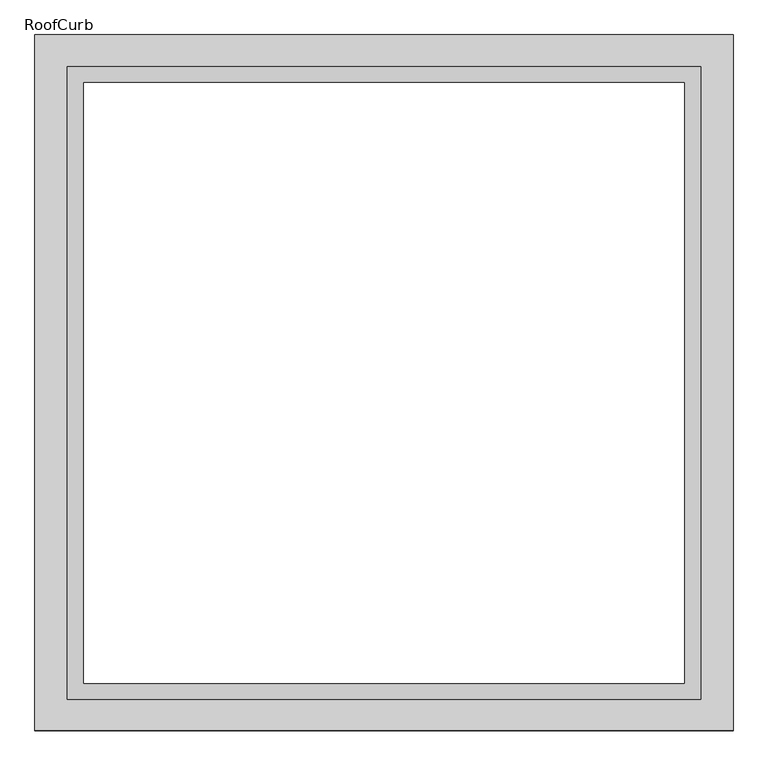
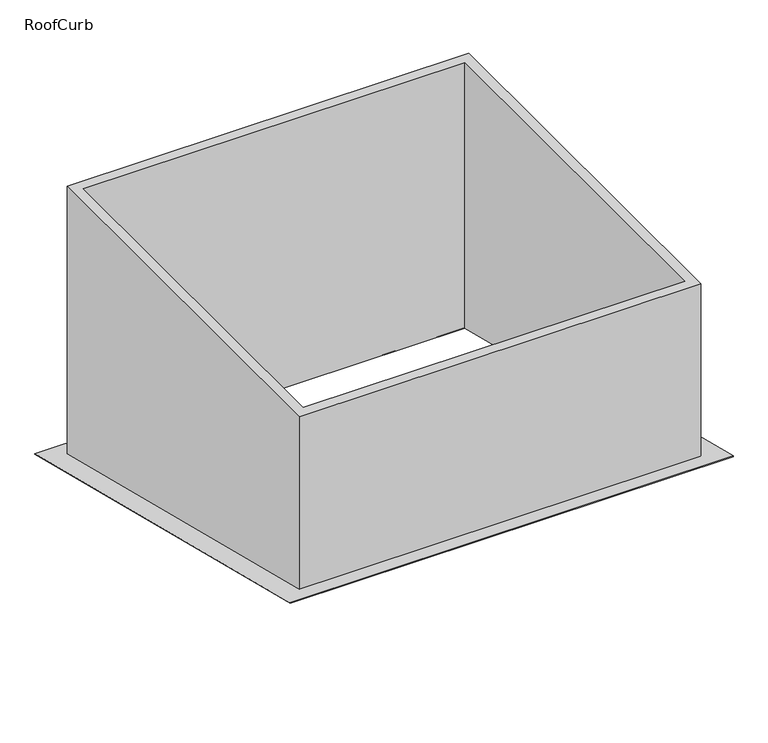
"""IFC4 building model written with IfcOpenShell, lengths in millimetres: proxy geometry, RoofCurb : GPIP."""

from ifc_helpers import new_model, si_unit, origin, place, context, project, spatial, faceted_brep, source, transform, mapped, element, save


def roofcurb_98b86a13(model_context):
    return source(origin(), model_context, "Body", "Brep", [
        faceted_brep([(175.0940258, 45.2532664, -247.65), (175.0940258, 45.2532664, 450.85), (175.0940258, -945.3467336, 450.85), (175.0940258, -945.3467336, 0.0), (-815.5059742, 45.2532664, -247.65), (-815.5059742, -945.3467336, 0.0), (-815.5059742, -945.3467336, 450.85), (-815.5059742, 45.2532664, 450.85), (-790.1059742, 19.8532664, 450.85), (149.6940258, 19.8532664, 450.85), (149.6940258, -919.9467336, 450.85), (-790.1059742, -919.9467336, 450.85), (149.6940258, 19.8532664, -241.3), (-790.1059742, 19.8532664, -241.3), (-790.1059742, -919.9467336, -6.35), (149.6940258, -919.9467336, -6.35)], [[[0, 1, 2, 3]], [[4, 5, 6, 7]], [[1, 0, 4, 7]], [[2, 1, 7, 6], [8, 9, 10, 11]], [[3, 2, 6, 5]], [[0, 3, 5, 4], [12, 13, 14, 15]], [[8, 13, 12, 9]], [[9, 12, 15, 10]], [[10, 15, 14, 11]], [[13, 8, 11, 14]]]),
        faceted_brep([(-866.3059742, -994.6299726, 12.3208098), (-866.3059742, -994.2449473, 13.860911), (-866.3059742, 94.9215307, -258.4307085), (-866.3059742, 94.5365054, -259.9708098), (225.8940258, -994.6299726, 12.3208098), (225.8940258, 94.5365054, -259.9708098), (225.8940258, 94.9215307, -258.4307085), (225.8940258, -994.2449473, 13.860911), (-790.1059742, 19.8532664, -239.6636425), (149.6940258, 19.8532664, -239.6636425), (149.6940258, -919.9467336, -4.7136425), (-790.1059742, -919.9467336, -4.7136425), (149.6940258, 19.8532664, -241.3), (-790.1059742, 19.8532664, -241.3), (-790.1059742, -919.9467336, -6.35), (149.6940258, -919.9467336, -6.35)], [[[0, 1, 2, 3]], [[4, 5, 6, 7]], [[1, 0, 4, 7]], [[2, 1, 7, 6], [8, 9, 10, 11]], [[3, 2, 6, 5]], [[0, 3, 5, 4], [12, 13, 14, 15]], [[8, 13, 12, 9]], [[9, 12, 15, 10]], [[10, 15, 14, 11]], [[13, 8, 11, 14]]]),
    ])


if __name__ == "__main__":
    model = new_model("IFC4")
    model_context = context("Model", 3, world=origin())
    ifc_project = project(units=[si_unit("LENGTHUNIT", "METRE", prefix="MILLI")], contexts=[model_context])
    site = spatial("IfcSite", under=ifc_project)
    building = spatial("IfcBuilding", under=site)
    placement = place(None, origin())
    roofcurb_shape = roofcurb_98b86a13(model_context)
    element("IfcBuildingElementProxy", 1, Name="RoofCurb : GPIP", ObjectType="RoofCurb : GPIP", at=placement, inside=building, context=model_context, shape_type="MappedRepresentation", body=[
        mapped(roofcurb_shape, transform((0.0, 0.0, 0.0), x_axis=(1.0, 0.0, 0.0), y_axis=(0.0, 1.0, 0.0), z_axis=(0.0, 0.0, 1.0))),
    ])
    save(model, "model.ifc")
